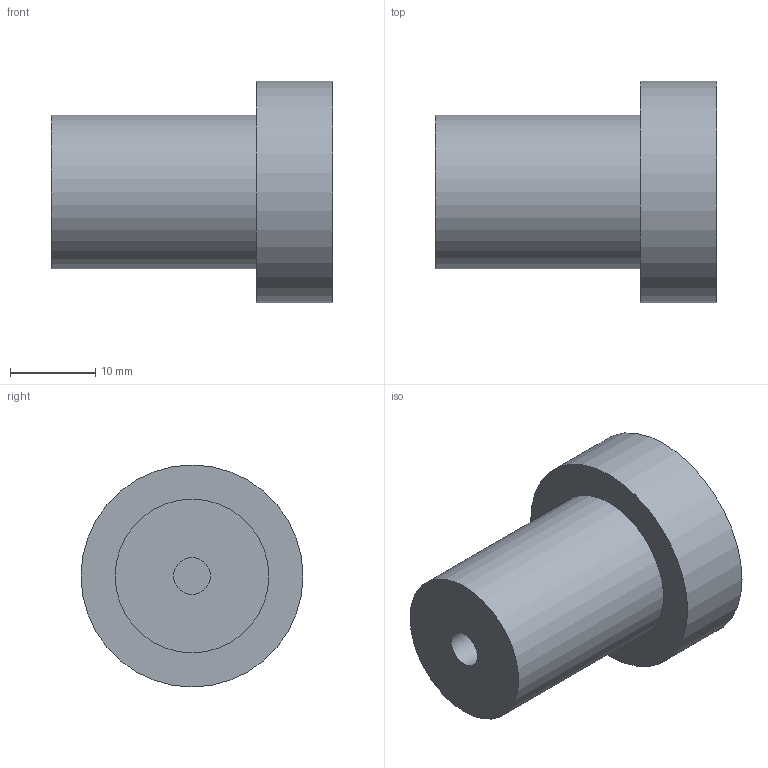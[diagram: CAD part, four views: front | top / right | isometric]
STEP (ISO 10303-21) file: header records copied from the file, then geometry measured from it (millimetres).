
FILE_DESCRIPTION(/* description */ (''),/* implementation_level */ '2;1');
FILE_NAME(/* name */ '4111 635',/* time_stamp */ '2019-08-20T09:38:54+08:00',/* author */ (''),/* organization */ (''),/* preprocessor_version */ 'ST-DEVELOPER v9',/* originating_system */ 'UGS - NX 4.0',/* authorisation */ '');
FILE_SCHEMA (('CONFIG_CONTROL_DESIGN'));
Length unit declared in the file: millimetre
Products named in the file (1): w337D95ig4v
Bounding box: 33 x 26 x 26 mm (x, y, z)
Volume: 9346.7 mm3; surface area: 5106.2 mm2
Topology: 2 solids, 2 shells, 21 faces, 38 edges, 25 vertices
Faces by surface type: plane 9, cylinder 8, bspline 3, cone 1
Full cylindrical faces by diameter (mm): 4.3 x1, 8 x1, 10 x1, 14 x1, 18 x1, 26 x1
Entity records: 1694 total; most frequent: CARTESIAN_POINT 1232, DIRECTION 73, ORIENTED_EDGE 62, AXIS2_PLACEMENT_3D 35, EDGE_LOOP 34, EDGE_CURVE 31, VERTEX_POINT 25, ADVANCED_FACE 21
